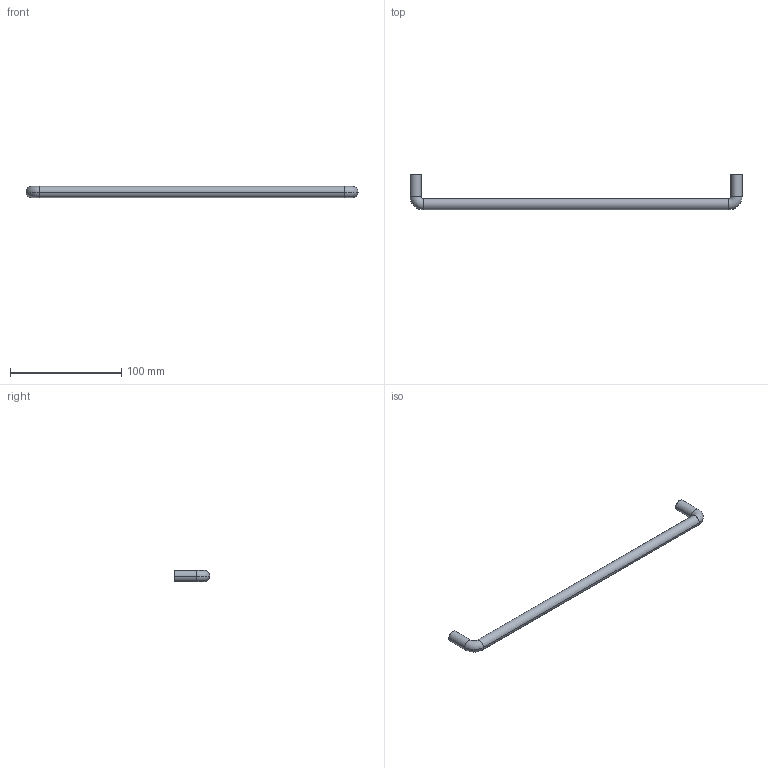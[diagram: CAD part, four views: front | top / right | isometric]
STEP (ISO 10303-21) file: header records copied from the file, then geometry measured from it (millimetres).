
FILE_DESCRIPTION( ( '' ), '1' );
FILE_NAME( 'C:/Documents and Settings/Sachin/Desktop/Sheet 10_1/stp/9069922.stp', '2013-10-22T08:33:14', ( '' ), ( '' ), ' ', ' ', ' ' );
FILE_SCHEMA( ( 'CONFIG_CONTROL_DESIGN' ) );
Length unit declared in the file: millimetre
Products named in the file (1): 1
Bounding box: 298 x 32 x 10 mm (x, y, z)
Volume: 26212.8 mm3; surface area: 10888.5 mm2
Topology: 1 solids, 1 shells, 18 faces, 34 edges, 20 vertices
Faces by surface type: cylinder 10, torus 4, plane 4
Entity records: 502 total; most frequent: DIRECTION 96, CARTESIAN_POINT 73, ORIENTED_EDGE 68, AXIS2_PLACEMENT_3D 43, EDGE_CURVE 34, CIRCLE 24, EDGE_LOOP 20, VERTEX_POINT 20
